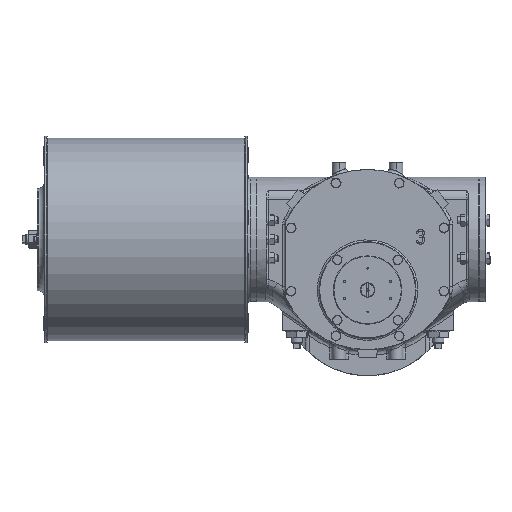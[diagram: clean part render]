
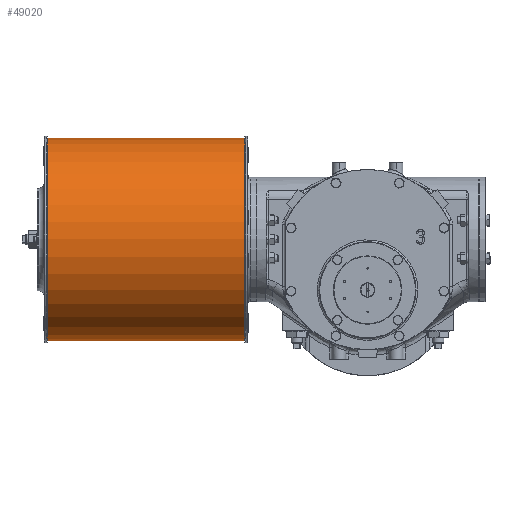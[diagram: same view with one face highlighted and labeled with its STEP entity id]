
A CAD part, top view. The second image highlights one B-rep face of the part: STEP entity #49020.
In plain terms, the highlighted cylindrical face has radius 177.8 mm (diameter 355.6 mm), a partial arc.
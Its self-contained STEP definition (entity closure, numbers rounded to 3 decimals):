
#21 = DIRECTION ( 'NONE',  ( 0., 1., 0. ) ) ;
#405 = AXIS2_PLACEMENT_3D ( 'NONE', #30783, #46315, #21 ) ;
#1149 = VERTEX_POINT ( 'NONE', #30396 ) ;
#1295 = CARTESIAN_POINT ( 'NONE',  ( -215., -142.3, 74.5 ) ) ;
#1798 = LINE ( 'NONE', #2461, #8309 ) ;
#1833 = VERTEX_POINT ( 'NONE', #57317 ) ;
#2461 = CARTESIAN_POINT ( 'NONE',  ( -562., -142.3, 74.5 ) ) ;
#7026 = CARTESIAN_POINT ( 'NONE',  ( -562., 35.5, 74.5 ) ) ;
#8309 = VECTOR ( 'NONE', #59544, 1000. ) ;
#11583 = EDGE_CURVE ( 'NONE', #53266, #1149, #56877, .T. ) ;
#13099 = ORIENTED_EDGE ( 'NONE', *, *, #24315, .T. ) ;
#14115 = CARTESIAN_POINT ( 'NONE',  ( -562., 35.5, 74.5 ) ) ;
#15222 = ORIENTED_EDGE ( 'NONE', *, *, #37869, .F. ) ;
#17690 = LINE ( 'NONE', #37976, #32949 ) ;
#18178 = DIRECTION ( 'NONE',  ( 1., 0., 0. ) ) ;
#21234 = DIRECTION ( 'NONE',  ( 0., 1., 0. ) ) ;
#23580 = VERTEX_POINT ( 'NONE', #1295 ) ;
#24315 = EDGE_CURVE ( 'NONE', #1149, #23580, #1798, .T. ) ;
#30396 = CARTESIAN_POINT ( 'NONE',  ( -562., -142.3, 74.5 ) ) ;
#30783 = CARTESIAN_POINT ( 'NONE',  ( -215., 35.5, 74.5 ) ) ;
#32949 = VECTOR ( 'NONE', #53159, 1000. ) ;
#36217 = AXIS2_PLACEMENT_3D ( 'NONE', #14115, #18178, #39459 ) ;
#37869 = EDGE_CURVE ( 'NONE', #53266, #1833, #17690, .T. ) ;
#37976 = CARTESIAN_POINT ( 'NONE',  ( -562., 213.3, 74.5 ) ) ;
#39459 = DIRECTION ( 'NONE',  ( 0., 1., 0. ) ) ;
#45472 = CARTESIAN_POINT ( 'NONE',  ( -562., 213.3, 74.5 ) ) ;
#46315 = DIRECTION ( 'NONE',  ( -1., 0., 0. ) ) ;
#47873 = CIRCLE ( 'NONE', #405, 177.8 ) ;
#49020 = ADVANCED_FACE ( 'NONE', ( #54985 ), #65471, .T. ) ;
#49331 = AXIS2_PLACEMENT_3D ( 'NONE', #7026, #62452, #21234 ) ;
#52597 = EDGE_LOOP ( 'NONE', ( #60534, #13099, #65954, #15222 ) ) ;
#53159 = DIRECTION ( 'NONE',  ( 1., 0., 0. ) ) ;
#53266 = VERTEX_POINT ( 'NONE', #45472 ) ;
#53963 = EDGE_CURVE ( 'NONE', #23580, #1833, #47873, .T. ) ;
#54985 = FACE_OUTER_BOUND ( 'NONE', #52597, .T. ) ;
#56877 = CIRCLE ( 'NONE', #49331, 177.8 ) ;
#57317 = CARTESIAN_POINT ( 'NONE',  ( -215., 213.3, 74.5 ) ) ;
#59544 = DIRECTION ( 'NONE',  ( 1., 0., 0. ) ) ;
#60534 = ORIENTED_EDGE ( 'NONE', *, *, #11583, .T. ) ;
#62452 = DIRECTION ( 'NONE',  ( 1., 0., 0. ) ) ;
#65471 = CYLINDRICAL_SURFACE ( 'NONE', #36217, 177.8 ) ;
#65954 = ORIENTED_EDGE ( 'NONE', *, *, #53963, .T. ) ;
